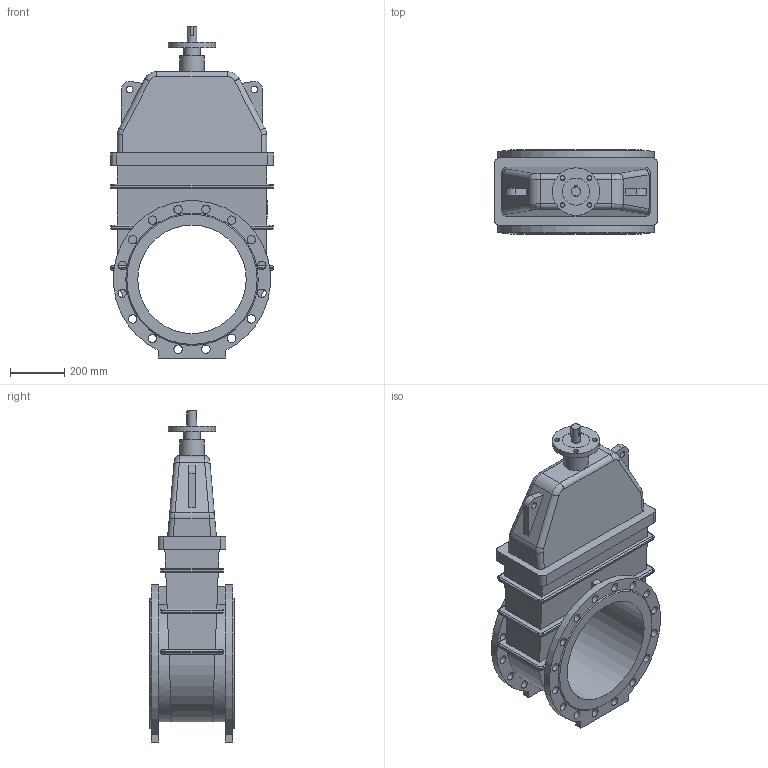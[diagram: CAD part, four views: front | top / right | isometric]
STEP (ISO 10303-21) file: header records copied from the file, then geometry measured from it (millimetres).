
FILE_DESCRIPTION(('STEP AP203'), '1');
FILE_NAME('Çàäâèæêà 47GVA DN400 PN16 áåç èñïîëíèò. ìåõ.', '', ('UNSPECIFIED'), ('UNSPECIFIED'), 'ASCON STEP Converter 1.6', 'ASCON Math Kernel', '');
FILE_SCHEMA(('CONFIG_CONTROL_DESIGN'));
Length unit declared in the file: millimetre
Bounding box: 600 x 310 x 1224 mm (x, y, z)
Volume: 76513314.2 mm3; surface area: 2628720.2 mm2
Topology: 1 solids, 1 shells, 265 faces, 666 edges, 422 vertices
Faces by surface type: cylinder 123, plane 108, bspline 32, cone 2
Full cylindrical faces by diameter (mm): 18 x4, 25 x2, 31 x32, 34 x1, 60 x1, 90 x1, 100 x1, 175 x1, 400 x1
Entity records: 13164 total; most frequent: CARTESIAN_POINT 4930, ORIENTED_EDGE 1240, DIRECTION 1170, EDGE_CURVE 620, AXIS2_PLACEMENT_3D 426, VERTEX_POINT 422, EDGE_LOOP 408, LINE 318
